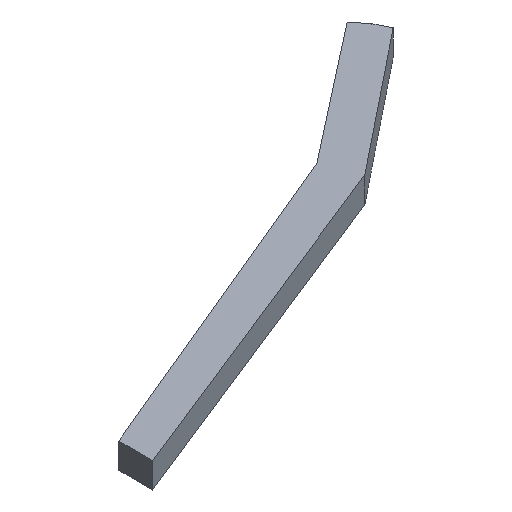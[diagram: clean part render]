
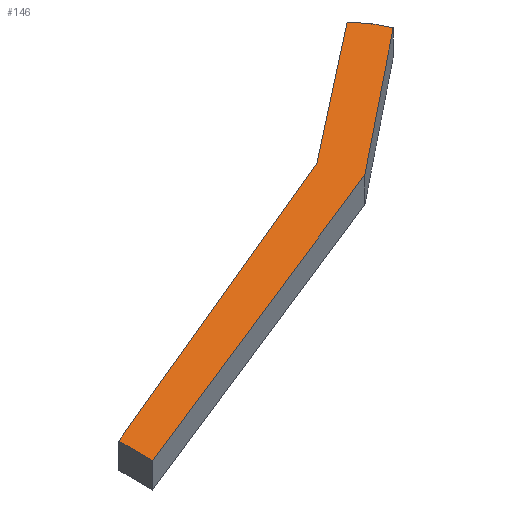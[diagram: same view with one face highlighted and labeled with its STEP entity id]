
A CAD part, isometric view. The second image highlights one B-rep face of the part: STEP entity #146.
In plain terms, the highlighted planar face has unit normal (0, 0, 1).
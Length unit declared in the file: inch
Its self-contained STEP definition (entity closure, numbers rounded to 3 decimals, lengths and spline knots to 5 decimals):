
#15 = VECTOR ( 'NONE', #80, 39.37008 ) ;
#16 = LINE ( 'NONE', #221, #316 ) ;
#17 = EDGE_CURVE ( 'NONE', #337, #102, #61, .T. ) ;
#19 = LINE ( 'NONE', #232, #115 ) ;
#21 = CARTESIAN_POINT ( 'NONE',  ( 0., 0., 70.86614 ) ) ;
#23 = DIRECTION ( 'NONE',  ( 0., 0., 1. ) ) ;
#26 = EDGE_CURVE ( 'NONE', #39, #259, #305, .T. ) ;
#33 = ORIENTED_EDGE ( 'NONE', *, *, #243, .T. ) ;
#34 = CARTESIAN_POINT ( 'NONE',  ( 1358.26772, 748.0315, 70.86614 ) ) ;
#36 = EDGE_LOOP ( 'NONE', ( #154, #253, #72, #152, #33, #66, #149 ) ) ;
#39 = VERTEX_POINT ( 'NONE', #121 ) ;
#44 = DIRECTION ( 'NONE',  ( -0.789, -0.615, 0. ) ) ;
#52 = EDGE_CURVE ( 'NONE', #259, #251, #16, .T. ) ;
#61 = LINE ( 'NONE', #116, #86 ) ;
#66 = ORIENTED_EDGE ( 'NONE', *, *, #26, .T. ) ;
#70 = EDGE_CURVE ( 'NONE', #102, #75, #196, .T. ) ;
#72 = ORIENTED_EDGE ( 'NONE', *, *, #17, .T. ) ;
#75 = VERTEX_POINT ( 'NONE', #34 ) ;
#80 = DIRECTION ( 'NONE',  ( -0.615, 0.789, 0. ) ) ;
#86 = VECTOR ( 'NONE', #145, 39.37008 ) ;
#90 = CARTESIAN_POINT ( 'NONE',  ( 0., 0., 70.86614 ) ) ;
#95 = CARTESIAN_POINT ( 'NONE',  ( 1377.95276, 708.66142, 70.86614 ) ) ;
#102 = VERTEX_POINT ( 'NONE', #95 ) ;
#108 = VECTOR ( 'NONE', #314, 39.37008 ) ;
#115 = VECTOR ( 'NONE', #123, 39.37008 ) ;
#116 = CARTESIAN_POINT ( 'NONE',  ( 984.25197, 393.70079, 70.86614 ) ) ;
#121 = CARTESIAN_POINT ( 'NONE',  ( 1327.91036, 786.95118, 70.86614 ) ) ;
#123 = DIRECTION ( 'NONE',  ( 0., -1., 0. ) ) ;
#124 = VECTOR ( 'NONE', #44, 39.37008 ) ;
#129 = DIRECTION ( 'NONE',  ( 1., 0., 0. ) ) ;
#143 = FACE_OUTER_BOUND ( 'NONE', #36, .T. ) ;
#145 = DIRECTION ( 'NONE',  ( 0.781, 0.625, 0. ) ) ;
#146 = ADVANCED_FACE ( 'NONE', ( #143 ), #323, .T. ) ;
#149 = ORIENTED_EDGE ( 'NONE', *, *, #52, .T. ) ;
#152 = ORIENTED_EDGE ( 'NONE', *, *, #70, .T. ) ;
#154 = ORIENTED_EDGE ( 'NONE', *, *, #261, .T. ) ;
#163 = CARTESIAN_POINT ( 'NONE',  ( 1327.91036, 786.95118, 70.86614 ) ) ;
#168 = DIRECTION ( 'NONE',  ( -0.447, 0.894, 0. ) ) ;
#196 = LINE ( 'NONE', #302, #332 ) ;
#206 = EDGE_CURVE ( 'NONE', #319, #337, #315, .T. ) ;
#207 = CARTESIAN_POINT ( 'NONE',  ( 984.25197, 393.70079, 70.86614 ) ) ;
#221 = CARTESIAN_POINT ( 'NONE',  ( 944.88189, 488.18898, 70.86614 ) ) ;
#226 = DIRECTION ( 'NONE',  ( -0.923, -0.385, 0. ) ) ;
#232 = CARTESIAN_POINT ( 'NONE',  ( 0., 47.24409, 70.86614 ) ) ;
#243 = EDGE_CURVE ( 'NONE', #75, #39, #262, .T. ) ;
#251 = VERTEX_POINT ( 'NONE', #282 ) ;
#253 = ORIENTED_EDGE ( 'NONE', *, *, #206, .T. ) ;
#259 = VERTEX_POINT ( 'NONE', #286 ) ;
#261 = EDGE_CURVE ( 'NONE', #251, #319, #19, .T. ) ;
#262 = LINE ( 'NONE', #333, #15 ) ;
#280 = CARTESIAN_POINT ( 'NONE',  ( 0., 0., 70.86614 ) ) ;
#282 = CARTESIAN_POINT ( 'NONE',  ( 0., 94.48819, 70.86614 ) ) ;
#286 = CARTESIAN_POINT ( 'NONE',  ( 944.88189, 488.18898, 70.86614 ) ) ;
#302 = CARTESIAN_POINT ( 'NONE',  ( 1377.95276, 708.66142, 70.86614 ) ) ;
#305 = LINE ( 'NONE', #163, #124 ) ;
#314 = DIRECTION ( 'NONE',  ( 0.928, 0.371, 0. ) ) ;
#315 = LINE ( 'NONE', #21, #108 ) ;
#316 = VECTOR ( 'NONE', #226, 39.37008 ) ;
#319 = VERTEX_POINT ( 'NONE', #280 ) ;
#323 = PLANE ( 'NONE',  #339 ) ;
#332 = VECTOR ( 'NONE', #168, 39.37008 ) ;
#333 = CARTESIAN_POINT ( 'NONE',  ( 1358.26772, 748.0315, 70.86614 ) ) ;
#337 = VERTEX_POINT ( 'NONE', #207 ) ;
#339 = AXIS2_PLACEMENT_3D ( 'NONE', #90, #23, #129 ) ;
